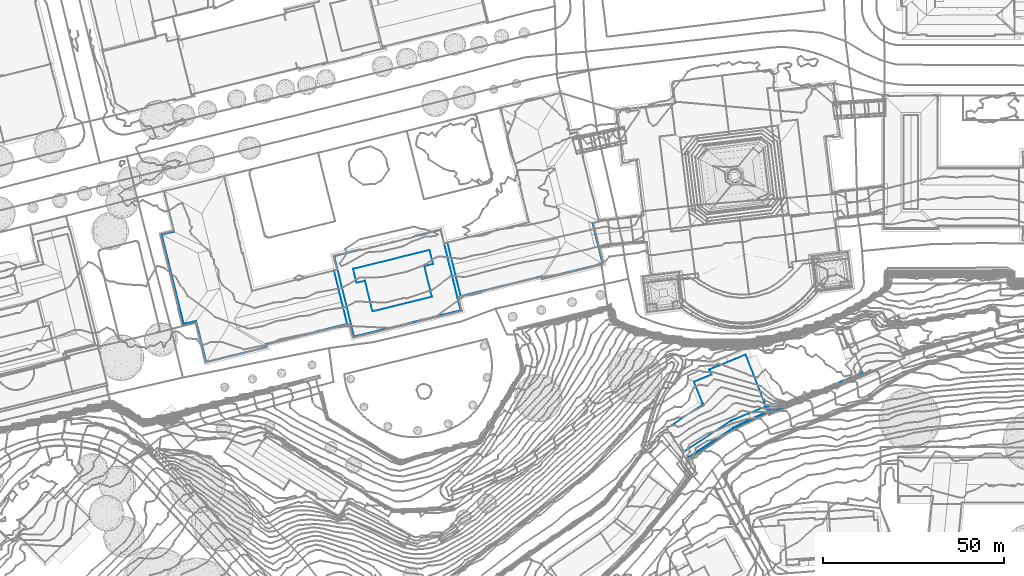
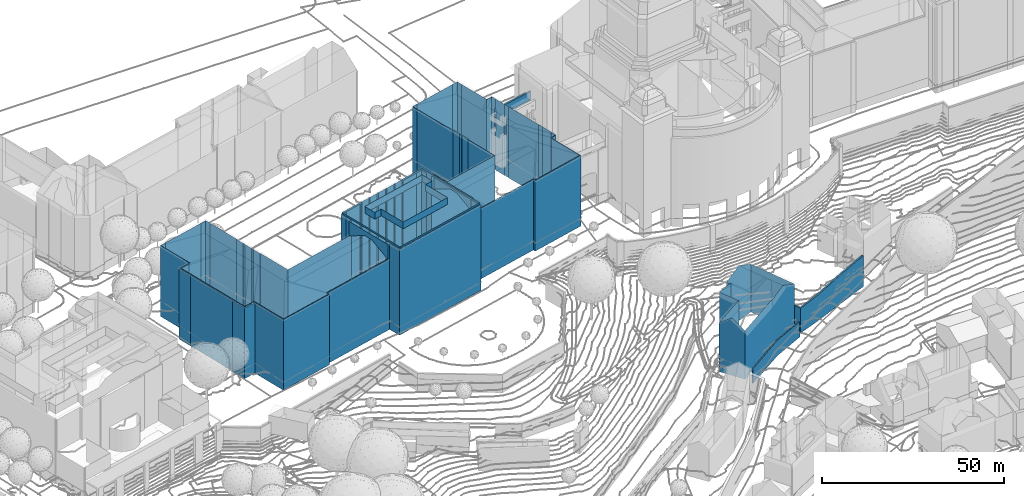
# Not in any storey, part 47 of 494: 3 walls.
"""IFC2X3 model written with IfcOpenShell, lengths in metres."""

import ifcopenshell
import ifcopenshell.guid

model = None  # the IFC model being written
_history = None  # IfcOwnerHistory: only IFC2X3 demands one
_inside = {}  # id of a spatial element -> (the spatial element, [elements in it])
_under = {}  # id of a project, library or spatial element -> (it, [spatial elements below it])
_declared = {}  # id of a project -> (the project, [libraries it declares])
_typed = {}  # id of a type object -> (the type object, [elements of that type])
_made_of = {}  # id of a material, layer set ... -> (it, [elements and type objects made of it])


def new_model(schema):
    """Start an empty IFC model of exactly this schema.

    Asked for "IFC4X3", IfcOpenShell would pick the latest addendum, in which some entities
    have other attributes; the version numbers below select the first issue.
    IFC2X3 requires an IfcOwnerHistory on every rooted entity: one is made here for all.
    """
    global model, _history
    if schema == "IFC4X3":
        model = ifcopenshell.file(schema_version=(4, 3, 0, 0))
    else:
        model = ifcopenshell.file(schema=schema)
    _inside.clear()
    _under.clear()
    _declared.clear()
    _typed.clear()
    _made_of.clear()
    _history = None
    if model.schema == "IFC2X3":
        org = make("IfcOrganization", Name="unknown")
        user = make(
            "IfcPersonAndOrganization",
            ThePerson=make("IfcPerson", FamilyName="unknown"),
            TheOrganization=org,
        )
        app = make(
            "IfcApplication",
            ApplicationDeveloper=org,
            Version="unknown",
            ApplicationFullName="unknown",
            ApplicationIdentifier="unknown",
        )
        _history = make(
            "IfcOwnerHistory",
            OwningUser=user,
            OwningApplication=app,
            ChangeAction="ADDED",
            CreationDate=0,
        )
    return model


def make(cls, **values):
    """One entity of the class cls with the attributes given. An attribute that is None is left unset."""
    return model.create_entity(
        cls, **{name: value for name, value in values.items() if value is not None}
    )


def rooted(cls, **values):
    """An entity with a GlobalId (a new one), such as an element, a storey or a relation."""
    return make(cls, GlobalId=ifcopenshell.guid.new(), OwnerHistory=_history, **values)


def si_unit(unit_type, name, prefix=None):
    """IfcSIUnit, for example si_unit("LENGTHUNIT", "METRE", prefix="MILLI")."""
    return make("IfcSIUnit", UnitType=unit_type, Prefix=prefix, Name=name)


def assignment(units):
    """IfcUnitAssignment: the units of a project."""
    return None if units is None else make("IfcUnitAssignment", Units=units)


def point(xyz):
    """IfcCartesianPoint."""
    return None if xyz is None else make("IfcCartesianPoint", Coordinates=xyz)


def direction(xyz):
    """IfcDirection."""
    return None if xyz is None else make("IfcDirection", DirectionRatios=xyz)


def frame(location, z_axis=None, x_axis=None):
    """IfcAxis2Placement3D, a coordinate frame: its origin and axes. An axis left out is left unset."""
    return make(
        "IfcAxis2Placement3D",
        Location=point(location),
        Axis=direction(z_axis),
        RefDirection=direction(x_axis),
    )


def origin_with_axes():
    """The frame at (0, 0, 0) with the z axis (0, 0, 1) and the x axis (1, 0, 0) written out."""
    return frame((0.0, 0.0, 0.0), z_axis=(0.0, 0.0, 1.0), x_axis=(1.0, 0.0, 0.0))


def place(relative_to, where):
    """IfcLocalPlacement: puts the frame where relative to a parent placement (None: the world)."""
    return make(
        "IfcLocalPlacement", PlacementRelTo=relative_to, RelativePlacement=where
    )


def context(
    kind, dimensions, precision=None, world=None, true_north=None, identifier=None
):
    """IfcGeometricRepresentationContext, for example the 3D "Model" context."""
    return make(
        "IfcGeometricRepresentationContext",
        ContextIdentifier=identifier,
        ContextType=kind,
        CoordinateSpaceDimension=dimensions,
        Precision=precision,
        WorldCoordinateSystem=world,
        TrueNorth=true_north,
    )


def subcontext(parent, identifier, kind, view, scale=None):
    """IfcGeometricRepresentationSubContext, for example "Body" below "Model"."""
    return make(
        "IfcGeometricRepresentationSubContext",
        ContextIdentifier=identifier,
        ContextType=kind,
        ParentContext=parent,
        TargetScale=scale,
        TargetView=view,
    )


def project(units=None, contexts=None):
    """IfcProject with its units and contexts."""
    return rooted(
        "IfcProject",
        Name="project",
        RepresentationContexts=contexts,
        UnitsInContext=assignment(units),
    )


def faces_of(points, faces, orient=None, outer=None):
    """IfcFace entities. A face is a list of loops; a loop is a list of indices into points, from 0.

    orient and outer hold one flag for each loop. By default every Orientation is true, the
    first loop of a face is its IfcFaceOuterBound and the others are IfcFaceBound.
    """
    made = []
    for i, loops in enumerate(faces):
        bounds = []
        for j, loop in enumerate(loops):
            is_outer = j == 0 if outer is None else outer[i][j]
            bounds.append(
                make(
                    "IfcFaceOuterBound" if is_outer else "IfcFaceBound",
                    Bound=make("IfcPolyLoop", Polygon=[points[k] for k in loop]),
                    Orientation=True if orient is None else orient[i][j],
                )
            )
        made.append(make("IfcFace", Bounds=bounds))
    return made


def faceted_brep(points, faces, orient=None, outer=None, voids=None):
    """IfcFacetedBrep: a solid bounded by flat faces; with voids (closed shells), ...WithVoids."""
    shared = [point(p) for p in points]
    hull = make("IfcClosedShell", CfsFaces=faces_of(shared, faces, orient, outer))
    if voids is None:
        return make("IfcFacetedBrep", Outer=hull)
    return make(
        "IfcFacetedBrepWithVoids",
        Outer=hull,
        Voids=[
            make(cls, CfsFaces=faces_of(shared, fs, o, b)) for cls, fs, o, b in voids
        ],
    )


def shape(context_of_items, identifier, shape_type, items):
    """IfcShapeRepresentation: the items that make up one representation, for example the "Body"."""
    return make(
        "IfcShapeRepresentation",
        ContextOfItems=context_of_items,
        RepresentationIdentifier=identifier,
        RepresentationType=shape_type,
        Items=items,
    )


def made_of(thing, what):
    """Note that an element or type object is made of a material, layer set ...; save() writes the relation."""
    if what is not None:
        _made_of.setdefault(what.id(), (what, []))[1].append(thing)
    return thing


def element(
    cls,
    number,
    at=None,
    inside=None,
    cuts=None,
    type_object=None,
    material=None,
    context=None,
    identifier="Body",
    shape_type=None,
    held_by="IfcProductDefinitionShape",
    body=None,
    shapes=None,
    **own,
):
    """One element of the class cls, such as IfcWall. Its Tag is "e" and its number.

    at: its placement. inside: the storey or other place that contains it. cuts: it is an
    opening in that element (IfcRelVoidsElement). A single representation is given by context,
    identifier, shape_type and body (its items); several are given by shapes. held_by: the class
    of the entity that holds the representations. save() writes the other relations.
    """
    e = rooted(cls, Tag="e%d" % number, ObjectPlacement=at, **own)
    if body is not None:
        shapes = [shape(context, identifier, shape_type, body)]
    if shapes is not None:
        e.Representation = make(held_by, Representations=shapes)
    if inside is not None:
        _inside.setdefault(inside.id(), (inside, []))[1].append(e)
    if cuts is not None:
        rooted(
            "IfcRelVoidsElement", RelatingBuildingElement=cuts, RelatedOpeningElement=e
        )
    if type_object is not None:
        _typed.setdefault(type_object.id(), (type_object, []))[1].append(e)
    return made_of(e, material)


def aggregate(whole, parts):
    """IfcRelAggregates: a whole, such as a stair, and the parts it consists of."""
    return rooted("IfcRelAggregates", RelatingObject=whole, RelatedObjects=parts)


def save(model, path):
    """Write the relations noted so far, then the file.

    IfcRelAggregates (storeys below a building ...), IfcRelContainedInSpatialStructure (elements
    in a storey), IfcRelDefinesByType, IfcRelAssociatesMaterial and IfcRelDeclares: one each for
    every whole, place, type object, material and project.
    """
    for whole, parts in _under.values():
        aggregate(whole, parts)
    for where, things in _inside.values():
        rooted(
            "IfcRelContainedInSpatialStructure",
            RelatedElements=things,
            RelatingStructure=where,
        )
    for kind, things in _typed.values():
        rooted("IfcRelDefinesByType", RelatedObjects=things, RelatingType=kind)
    for what, things in _made_of.values():
        rooted("IfcRelAssociatesMaterial", RelatedObjects=things, RelatingMaterial=what)
    for by, libraries in _declared.values():
        rooted("IfcRelDeclares", RelatingContext=by, RelatedDefinitions=libraries)
    model.write(path)


model = new_model("IFC2X3")

# Units and contexts
model_context = context("Model", 3, precision=1e-05, world=origin_with_axes())
body_context = subcontext(model_context, "Body", "Model", "MODEL_VIEW")
ifc_project = project(units=[si_unit("AREAUNIT", "SQUARE_METRE"), si_unit("LENGTHUNIT", "METRE")], contexts=[model_context])

# Walls
wall_1_placement = place(None, frame((211.8297320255, 101.9383160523, 526.7541), z_axis=(0.0, 0.0, 1.0), x_axis=(1.0, 0.0, 0.0)))
element("IfcWall", 1, at=wall_1_placement, Name="Wall 11", context=body_context, shape_type="Brep", body=[
    faceted_brep([(330.2320000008, 220.5643999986, -8.4892), (336.4900000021, 222.9530999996, -16.7574), (330.2320000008, 220.5643999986, -16.7574), (329.9260000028, 219.8671999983, -8.4892), (329.8200000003, 220.1338, -13.0867), (329.9260000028, 219.8671999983, -16.7574), (329.6909999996, 220.4560000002, -13.0867), (329.8200000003, 220.1338, -16.7574), (329.1080000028, 221.9189000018, -8.4892), (329.1080000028, 221.9189000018, -16.7574), (329.6909999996, 220.4560000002, -16.7574), (329.6119999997, 222.120099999, -8.4892), (329.6119999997, 222.120099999, -16.7574), (336.6920000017, 222.4492000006, -8.1932), (336.6920000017, 222.4492000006, -16.7574), (307.6610000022, 207.3280999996, -13.3497), (307.4640000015, 207.6141999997, -13.3507), (307.6610000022, 207.3280999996, -18.1852), (320.1950000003, 215.5537, -13.0867), (320.1950000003, 215.5537, -18.1852), (320.0240000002, 215.8564000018, -18.1852), (307.4640000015, 207.6141999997, -18.1852), (329.9350000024, 220.1884999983, -18.1852), (329.9350000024, 220.1884999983, -16.7574), (329.7860000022, 220.5009999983, -16.7574), (329.7860000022, 220.5009999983, -18.1852), (320.0240000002, 215.8564000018, -13.0867), (355.8230000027, 231.0771000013, -6.4134), (356.0329999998, 230.5771000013, -6.4134), (355.8230000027, 231.0771000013, -16.7574), (345.7250000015, 226.2470999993, -7.1543), (356.0329999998, 230.5771000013, -16.7574), (345.7250000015, 226.2470999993, -16.7574), (336.4900000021, 222.9530999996, -8.1932), (345.5150000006, 226.7470999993, -16.7574), (345.5150000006, 226.7470999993, -7.1543)], [[[0, 1, 2]], [[3, 4, 5]], [[4, 3, 6]], [[7, 5, 4]], [[6, 8, 9]], [[8, 6, 3]], [[9, 10, 6]], [[11, 0, 12]], [[8, 11, 9]], [[13, 3, 14]], [[15, 16, 17]], [[18, 15, 19]], [[16, 20, 21]], [[22, 23, 7]], [[19, 7, 18]], [[7, 19, 22]], [[24, 23, 25]], [[26, 10, 20]], [[10, 24, 25]], [[10, 25, 20]], [[27, 28, 29]], [[28, 30, 31]], [[31, 30, 32]], [[32, 13, 14]], [[13, 32, 30]], [[1, 33, 34]], [[34, 33, 35]], [[35, 27, 29]], [[35, 29, 34]], [[33, 1, 0]], [[0, 2, 12]], [[11, 12, 9]], [[3, 5, 14]], [[16, 21, 17]], [[15, 17, 19]], [[26, 20, 16]], [[7, 4, 18]], [[23, 22, 25]], [[6, 10, 26]], [[28, 31, 29]]]),
])
wall_2_placement = place(None, frame((513.5957320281, 317.6404160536, 509.4928), z_axis=(0.0, 0.0, 1.0), x_axis=(1.0, 0.0, 0.0)))
element("IfcWall", 2, at=wall_2_placement, Name="Wall 0", context=body_context, shape_type="Brep", body=[
    faceted_brep([(9.9549999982, 6.7265999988, 0.0), (10.0130000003, 6.5868999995, 0.0), (10.0130000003, 6.5868999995, 16.3604), (9.9519999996, 6.7344000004, 16.2454), (0.0, 0.0, 16.3634), (0.0, 0.0, 0.0), (2.6699999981, -4.1709000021, 18.5192), (3.1609999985, -4.9375, 17.8613), (14.3919999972, 17.3271999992, 17.2913), (11.7060000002, 16.2216999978, 0.0), (11.7060000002, 16.2216999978, 15.9325), (14.2579999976, 17.2714999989, 0.0), (18.943, 19.1992000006, 0.0), (16.810999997, 18.3222999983, 18.5142), (11.8929999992, 15.7646999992, 5.9744), (12.0859999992, 15.2949999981, 0.0), (12.0810000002, 15.307599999, 15.9365), (11.9299999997, 15.6747999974, 15.9345), (8.5799999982, 10.0713, 16.2274), (7.4450000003, 12.8290999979, 16.2124), (7.4450000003, 12.8290999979, 0.0), (7.6369999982, 12.9081999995, 0.0), (12.2809999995, 14.8202999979, 0.0), (9.8909999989, 13.8359999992, 0.0), (12.2809999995, 14.8202999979, 16.3294), (18.1059999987, 2.2529999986, 16.2684), (17.7929999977, 2.1259999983, 16.3164), (17.8409999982, 2.1464999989, 6.2144), (17.5299999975, 2.0205000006, 16.3574), (17.5299999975, 2.0205000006, 0.0), (18.0879999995, 2.2460999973, 0.0), (4.3129999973, -6.7373000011, 16.3154), (4.3129999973, -6.7373000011, 0.0), (2.1219999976, -3.3144000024, 0.0), (23.8809999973, 4.5859999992, 17.8543), (22.5590000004, 4.0527999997, 18.5142), (21.3359999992, 3.5585999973, 17.8973), (19.617999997, 2.8642999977, 17.0313), (20.7049999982, 3.3037, 0.0), (18.8249999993, 19.1513999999, 17.5053), (21.7850000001, 20.3691999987, 16.0235), (21.7850000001, 20.3691999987, 0.0), (27.3729999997, 5.9970999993, 0.0), (27.3729999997, 5.9970999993, 16.1094), (24.5729999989, 4.8662, 0.0), (2.1219999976, -3.3144000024, 19.2541), (7.6380000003, 12.9082999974, 16.3574), (9.0689999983, 13.4970999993, 16.3484)], [[[0, 1, 2]], [[0, 2, 3]], [[2, 1, 4]], [[1, 5, 4]], [[6, 4, 7]], [[8, 9, 10]], [[11, 9, 8]], [[8, 12, 11]], [[13, 12, 8]], [[14, 15, 16]], [[10, 14, 17]], [[10, 9, 14]], [[14, 9, 15]], [[18, 0, 3]], [[0, 18, 19]], [[20, 0, 19]], [[20, 19, 21]], [[22, 16, 15]], [[23, 24, 22]], [[25, 26, 27]], [[26, 28, 27]], [[27, 29, 30]], [[31, 7, 32]], [[32, 7, 33]], [[5, 33, 7]], [[32, 29, 28]], [[31, 32, 28]], [[34, 35, 36]], [[30, 37, 25]], [[37, 30, 38]], [[39, 40, 12]], [[40, 41, 12]], [[42, 43, 34]], [[44, 42, 34]], [[38, 44, 34]], [[43, 42, 40]], [[40, 42, 41]], [[45, 4, 6]], [[4, 5, 7]], [[17, 14, 16]], [[46, 21, 19]], [[24, 16, 22]], [[47, 24, 23]], [[21, 46, 47]], [[47, 23, 21]], [[30, 25, 27]], [[28, 29, 27]], [[36, 37, 38]], [[38, 34, 36]], [[39, 12, 13]]]),
])
wall_3_placement = place(None, frame((373.5987320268, 371.2869160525, 536.8784), z_axis=(0.0, 0.0, 1.0), x_axis=(1.0, 0.0, 0.0)))
element("IfcWall", 3, at=wall_3_placement, Name="Wall 0", context=body_context, shape_type="Brep", body=[
    faceted_brep([(57.8649999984, -3.7060000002, 29.2891), (58.368999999, -3.6053999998, 29.2891), (57.8669999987, -3.7129000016, 28.7192), (58.368999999, -3.6053999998, 0.0229), (57.8649999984, -3.7060000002, 0.0229), (48.0639999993, -6.1162, 29.2891), (54.824000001, -4.4598999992, 28.7192), (48.0639999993, -6.1162, 28.7192), (53.5419999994, -28.3251999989, 29.2891), (53.5419999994, -28.3251999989, 28.7191), (82.9759999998, -21.0643999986, 29.2891), (82.9759999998, -21.0643999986, 28.7191), (70.6050000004, -0.5516999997, 29.2891), (77.4970000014, 1.1446000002, 28.7191), (70.6039999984, -0.5498000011, 28.7192), (53.2630000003, -9.6035000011, 31.5679), (74.4100000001, -4.3856999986, 31.5679), (53.2630000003, -9.6035000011, 29.2891), (54.2159999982, -13.4697000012, 31.5679), (54.2159999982, -13.4697000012, 29.2891), (56.5469999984, -12.8955000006, 31.5679), (56.5469999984, -12.8955000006, 29.2891), (58.6330000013, -21.3495999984, 31.5679), (58.6330000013, -21.3495999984, 29.2891), (75.0439999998, -17.2998000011, 31.5679), (75.0439999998, -17.2998000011, 29.2891), (72.9580000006, -8.8467000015, 31.5679), (72.9580000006, -8.8467000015, 29.2891), (75.3640000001, -8.2529000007, 31.5679), (75.3640000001, -8.2529000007, 29.2891), (74.4100000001, -4.3856999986, 29.2891), (110.5980000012, 39.0088, 23.5928), (111.0410000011, 37.2666000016, 0.0441), (110.5980000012, 39.0088, 0.0441), (94.4189999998, 33.1651000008, 23.5928), (93.9910000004, 34.9111999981, 23.5928), (94.4189999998, 33.1651000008, 0.0441), (94.4970000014, 33.182599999, 23.5928), (94.4970000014, 33.182599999, 0.0441), (97.057, 22.7696000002, 23.5928), (97.057, 22.7696000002, 0.0441), (105.5370000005, -12.4990000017, 23.5926), (105.3570000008, -11.7714999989, 23.5926), (105.5370000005, -12.4990000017, 0.0439), (122.4990000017, -8.316399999, 23.5926), (122.4990000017, -8.316399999, 0.0438), (119.6900000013, 3.0302999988, 23.5926), (119.6900000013, 3.0302999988, 0.0439), (121.2780000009, 3.4239000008, 23.5926), (121.2780000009, 3.4239000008, 0.0439), (116.3379999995, 23.0918000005, 13.2288), (116.4059999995, 23.1083999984, 13.2288), (116.3379999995, 23.0918000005, 0.044), (116.550999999, 23.2813000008, 19.0282), (116.7159999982, 22.5117999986, 19.0282), (116.550999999, 23.2813000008, 13.2288), (116.3040000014, 23.2276000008, 19.0282), (116.3040000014, 23.2276000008, 13.2288), (116.561999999, 22.4785000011, 19.0282), (116.7159999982, 22.5117000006, 13.2288), (115.7430000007, 27.0313000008, 17.5864), (115.8660000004, 26.4629000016, 17.5864), (115.7430000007, 27.0313000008, 13.2288), (128.1629999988, 29.7071000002, 20.3861), (128.2529999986, 29.1319000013, 20.3861), (128.1629999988, 29.7071000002, 17.5864), (101.8869999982, 3.246100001, 23.8076), (101.8660000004, 3.3379000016, 23.7586), (101.8869999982, 3.246100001, 23.6796), (116.3379999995, 23.0918000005, 23.8708), (116.4059999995, 23.1083999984, 23.8358), (116.3379999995, 23.0918000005, 19.0282), (78.0109999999, -0.566399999, 28.7191), (77.938000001, -0.5830000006, 28.7191), (78.0109999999, -0.566399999, -0.0031), (77.5419999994, 1.3183999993, 28.7192), (77.5419999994, 1.3183999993, -0.0031), (75.6510000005, 0.8594000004, 28.7192), (75.6510000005, 0.8594000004, -0.0031), (75.6629999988, 0.7919999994, 28.7192), (75.6629999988, 0.7919999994, -0.0031), (70.5520000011, -0.3955000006, 28.7192), (70.5520000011, -0.3955000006, -0.0031), (70.6039999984, -0.5498000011, -0.0031), (54.7780000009, -4.2939000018, 28.7192), (54.8229999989, -4.4541000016, 0.0229), (54.7780000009, -4.2939000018, -0.0031), (54.824000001, -4.4598999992, -0.0031), (49.7030000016, -5.6123000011, 28.7192), (49.7030000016, -5.6123000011, -0.0031), (49.688000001, -5.5439000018, 28.7192), (49.688000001, -5.5439000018, -0.0031), (47.8020000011, -5.995099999, 28.7192), (47.8020000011, -5.995099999, -0.0031), (48.2789999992, -7.9043000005, 28.7192), (48.2789999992, -7.9043000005, -0.0031), (48.3469999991, -7.8944999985, 28.7192), (48.3469999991, -7.8944999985, -0.0031), (51.6810000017, -25.0097000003, 28.7191), (51.6400000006, -24.8467000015, 23.7846), (51.6810000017, -25.0097000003, 23.5926), (50.1359999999, -18.7490000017, 27.0813), (51.6400000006, -24.8467000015, 23.5926), (49.4829999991, -16.1035000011, 27.0813), (47.9979999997, -10.0830000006, 28.7192), (47.9979999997, -10.0839999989, 23.8266), (83.3170000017, -21.2402000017, 28.7191), (53.2219999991, -28.6689000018, 28.7191), (83.3170000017, -21.2402000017, -0.0031), (15.8759999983, 15.6044999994, 23.5927), (17.6409999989, 16.0331999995, 23.5927), (15.8759999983, 15.6044999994, 0.0), (3.7170000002, 0.932599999, 23.5927), (1.0240000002, 11.9111000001, 23.5927), (3.7170000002, 0.932599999, 0.0), (1.0240000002, 11.9111000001, 0.0), (0.0, 0.0, 23.5927), (0.0, 0.0, 0.0), (1.074000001, -4.4052999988, 23.5927), (1.074000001, -4.4052999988, 0.0), (1.1359999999, -4.3847000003, 23.5927), (1.1359999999, -4.3847000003, 0.0), (5.0500000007, -20.6171999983, 23.5927), (5.0500000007, -20.6171999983, -0.0001), (4.9239999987, -20.6572000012, 23.5927), (4.9239999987, -20.6572000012, -0.0001), (6.1000000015, -25.433600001, 23.5927), (6.1000000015, -25.433600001, -0.0001), (9.8399999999, -24.5126999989, 23.5927), (9.8399999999, -24.5126999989, -0.0001), (12.5229999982, -35.4891999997, 23.5927), (12.5229999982, -35.4891999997, -0.0001), (29.504999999, -31.2811999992, 23.5926), (29.504999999, -31.2811999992, -0.0001), (29.3319999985, -30.5546999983, 23.5926), (29.3319999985, -30.5546999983, -0.0001), (29.175999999, -30.3662, 23.7956), (29.3900000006, -31.2324000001, 23.7956), (29.175999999, -30.3662, 23.5926), (12.686999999, -35.3524999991, 23.7956), (29.3900000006, -31.2324000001, 23.5926), (3.807, 0.6464999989, 23.7957), (1.0269999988, 11.9111000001, 23.7957), (3.807, 0.6464999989, 23.5927), (0.3960000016, -0.1942999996, 23.7957), (0.3960000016, -0.1942999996, 23.5927), (15.8819999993, 15.5742000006, 23.7957), (17.6469999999, 16.0088, 23.5927), (15.8819999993, 15.5742000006, 23.5927), (9.8859999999, -23.9979999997, 23.7957), (12.686999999, -35.3524999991, 23.5927), (6.4750000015, -24.8388999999, 23.7957), (9.8859999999, -23.9979999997, 23.5927), (6.4750000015, -24.8388999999, 23.5927), (48.879999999, -9.8662, 23.5937), (48.879999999, -9.8662, 28.7192), (48.6710000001, -9.0918000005, -0.0001), (48.879999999, -9.8662, -0.0031), (52.2740000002, -24.8632999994, 28.7191), (53.2219999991, -28.6689000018, -0.0031), (52.2740000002, -24.8632999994, -0.0031), (54.8229999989, -4.4541000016, 29.2891), (55.2969999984, -4.3535000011, 29.2891), (55.2969999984, -4.3535000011, -0.0031), (115.574000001, 26.4706999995, 13.2288), (115.5069999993, 26.4541000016, 13.2288), (115.574000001, 26.4706999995, 0.044), (105.7120000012, -12.2353000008, 23.7586), (105.5549999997, -11.5976000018, 23.7586), (105.7120000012, -12.2353000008, 23.5926), (82.9970000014, -17.1416000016, 23.5926), (105.5549999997, -11.5976000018, 23.5926), (122.2280000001, -8.1611000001, 23.7586), (122.2280000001, -8.1611000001, 23.5926), (97.1779999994, 22.3594000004, 23.7588), (97.1779999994, 22.3594000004, 23.5928), (94.5029999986, 33.1845999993, 23.7588), (94.0769999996, 34.9316999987, 23.5928), (113.3610000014, 27.7842000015, 23.7958), (113.3869999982, 27.6787, 23.7958), (113.3610000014, 27.7842000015, 23.5928), (115.1669999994, 28.1182000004, 23.7958), (113.3869999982, 27.6787, 23.5928), (110.5949999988, 39.0078000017, 23.7588), (111.0289999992, 37.2626999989, 23.5928), (119.4659999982, 3.0342000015, 23.7956), (119.4659999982, 3.0342000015, 23.5926), (121.2650000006, 3.4765999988, 23.7956), (121.2650000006, 3.4765999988, 23.5926), (115.5069999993, 26.4541000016, 23.8718), (115.5069999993, 26.4541000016, 20.3861), (115.574000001, 26.4706999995, 23.8378), (115.574000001, 26.4706999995, 20.3861), (82.3779999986, -17.4393999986, 28.7191), (82.3779999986, -17.4393999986, -0.0031), (78.4219999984, -2.5643999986, 28.7191), (78.4219999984, -2.5643999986, 23.8186), (78.4219999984, -2.5654000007, 0.0439), (77.938000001, -0.5830000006, -0.0031), (78.4239999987, -2.5643999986, -0.0031), (79.3449999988, -2.3348999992, 0.0439), (83.0309999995, -17.2782999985, 0.0439), (79.3449999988, -2.3348999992, -0.0031), (79.3449999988, -2.3348999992, 28.7191), (81.4860000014, -11.0166000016, 27.0813), (80.8339999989, -8.370099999, 27.0813), (83.0309999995, -17.2782999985, 28.7191), (79.3449999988, -2.3348999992, 23.8176), (82.9970000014, -17.1416000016, 23.7696), (83.0309999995, -17.2782999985, 23.5926), (70.1350000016, -0.691399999, 29.2891), (70.1350000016, -0.691399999, -0.0031), (67.561999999, -1.3310000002, 29.2891), (67.5949999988, -1.4305999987, 29.2891), (67.561999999, -1.3310000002, -0.0031), (67.0709999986, -1.4550999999, 29.2891), (67.0709999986, -1.4550999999, -0.0031), (64.5260000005, -2.1865000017, 29.2891), (67.0929999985, -1.5527000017, 29.2891), (64.5260000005, -2.1865000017, -0.0031), (64.4990000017, -2.0888000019, 29.2891), (64.4990000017, -2.0888000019, -0.0031), (64.006000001, -2.2138000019, 29.2891), (64.006000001, -2.2138000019, -0.0031), (61.4560000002, -2.9433000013, 29.2891), (64.0229999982, -2.3027000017, 29.2891), (61.4560000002, -2.9433000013, -0.0031), (61.4290000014, -2.8436999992, 29.2891), (61.4290000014, -2.8436999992, -0.0031), (58.3869999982, -3.6992000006, -0.0031), (58.368999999, -3.6053999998, -0.0031), (55.3229999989, -4.4492000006, -0.0031), (77.4970000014, 1.1446000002, 29.2891), (78.4189999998, -2.5654000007, 29.2891), (77.9270000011, -0.5859000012, 28.7191), (108.8660000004, 38.5166000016, 23.7898), (108.8539999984, 38.5799999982, 23.7588), (108.8660000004, 38.5166000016, 0.0441), (108.8530000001, 38.5839999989, 23.5928), (108.8530000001, 38.5839999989, 0.0441), (93.9910000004, 34.9111999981, 0.0441), (95.7369999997, 35.3427999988, 0.0441), (94.0769999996, 34.9316999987, 23.7588), (95.7369999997, 35.3418000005, 23.7588), (95.7369999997, 35.3427999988, 23.5928), (98.7190000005, 16.9912, 23.8656), (98.0789999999, 19.5478999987, 23.8598), (98.7190000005, 16.9912, 0.0439), (98.6140000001, 16.9600000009, 23.8106), (98.6140000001, 16.9600000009, 0.0439), (99.5309999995, 13.6953000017, 23.8656), (98.8949999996, 16.2657000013, 23.8636), (99.5309999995, 13.6953000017, 0.0439), (99.3159999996, 13.6475000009, 0.0439), (99.3159999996, 13.6475000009, 23.5926), (99.3209999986, 13.6493999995, 23.7586), (120.7749999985, 5.1620999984, 23.8636), (120.8500000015, 5.1719000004, 23.8266), (120.7749999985, 5.1620999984, 0.0439), (120.0170000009, 8.5381000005, 23.8276), (119.9479999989, 8.5117999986, 0.0439), (120.0170000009, 8.5381000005, 0.0439), (119.6469999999, 10.0518000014, 23.8266), (119.6469999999, 10.0518000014, 0.0439), (119.5700000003, 10.0322999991, 23.8656), (119.5700000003, 10.0322999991, 0.0439), (116.7789999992, 21.5967000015, 23.8358), (116.7120000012, 21.5782000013, 0.044), (116.7789999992, 21.5967000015, 0.044), (116.4059999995, 23.1083999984, 19.0282), (116.561999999, 22.4785000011, 13.2288), (116.4059999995, 23.1083999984, 0.044), (115.5229999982, 26.3887000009, 13.2288), (115.5069999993, 26.4541999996, 0.044), (115.5229999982, 26.3887000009, 17.5864), (115.5229999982, 26.3876999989, 20.3861), (128.2529999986, 29.1319000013, 17.5864), (115.8660000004, 26.4629000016, 13.2288), (115.4510000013, 26.9677999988, 17.5864), (115.4510000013, 26.9677999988, 13.2288), (115.4519999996, 26.9668000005, 20.3861), (98.7930000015, 16.246100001, 0.0439), (98.7930000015, 16.246100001, 23.8126), (98.8949999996, 16.2657000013, 0.0439), (97.8040000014, 20.2364000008, 0.0441), (97.8040000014, 20.2364000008, 23.8088), (97.9789999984, 19.5282999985, 0.0441), (97.9789999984, 19.5284000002, 23.8098), (98.0789999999, 19.5478999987, 0.0441), (101.8669999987, 3.3251999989, 23.5926), (101.8869999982, 3.246100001, 0.0439), (101.8660000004, 3.3379000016, 23.5976), (91.5289999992, 0.6983000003, 23.8046), (91.5289999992, 0.6983000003, 0.0439), (113.324000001, 27.7743999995, 23.8138), (113.324000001, 27.7743999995, 0.0441), (115.1460000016, 28.2050999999, 23.5928), (115.1460000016, 28.2050999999, 0.0441), (111.0410000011, 37.2666000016, 23.5928), (110.9750000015, 37.246100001, 0.0441), (111.0289999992, 37.2626999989, 23.7648), (110.9750000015, 37.246100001, 23.7918), (111.0009999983, 37.1396999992, 23.7928), (95.754999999, 35.2725000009, 0.0441), (95.754999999, 35.2725000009, 23.7948), (119.9479999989, 8.5117999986, 23.8646), (116.7120000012, 21.5782000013, 23.8708), (115.1840000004, 28.0469000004, 23.8378), (115.1669999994, 28.1182000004, 23.5928), (120.8500000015, 5.1719000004, 0.0439), (121.2520000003, 3.5322999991, 23.8276), (70.1629999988, -0.7899999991, 29.2891), (70.1629999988, -0.7899999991, -0.0031), (67.5949999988, -1.4305999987, -0.0031), (67.0929999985, -1.5527000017, -0.0031), (64.0229999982, -2.3027000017, -0.0031), (60.932, -2.9618999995, 29.2891), (60.932, -2.9618999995, -0.0031), (60.9580000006, -3.0654000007, 29.2891), (60.9580000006, -3.0654000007, -0.0031), (58.3869999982, -3.6992000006, 29.2891), (57.8920000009, -3.8203000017, -0.0031), (57.8669999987, -3.7129000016, -0.0031), (57.8920000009, -3.8203000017, 29.2891), (55.3229999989, -4.4492000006, 29.2891), (51.6810000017, -25.0097000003, -0.0031), (18.0700000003, 14.2949000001, 23.8377), (17.993999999, 14.2714999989, 0.0), (18.0700000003, 14.2949000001, 0.0), (2.7650000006, 12.3436999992, 0.0), (2.7650000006, 12.3438000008, 23.5927), (2.7839999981, 12.2763999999, 0.0), (2.7659999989, 12.3418000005, 23.7957), (2.7839999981, 12.2763999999, 23.8277), (2.7666999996, 12.3383999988, 23.7957), (2.7851999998, 12.2738000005, 0.0), (2.7661000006, 12.3394000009, 23.5927), (22.6050000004, -5.316399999, 23.9806), (22.8079999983, -5.2685000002, 23.8797), (22.6050000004, -5.316399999, -0.0001), (21.9010000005, -2.0097000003, 23.9277), (22.074000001, -2.7226000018, -0.0001), (21.9010000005, -2.0097000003, -0.0001), (21.8000000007, -2.0331999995, 23.9777), (21.8000000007, -2.0331999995, -0.0001), (21.1649999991, 0.5273999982, 23.9797), (21.1649999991, 0.5273999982, 0.0), (21.0949999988, 1.2646999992, 23.9267), (21.2670000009, 0.5507999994, 0.0), (21.0949999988, 1.2646999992, 0.0), (20.5650000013, 3.8506000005, 23.8767), (20.3539999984, 3.8027999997, 0.0), (20.5650000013, 3.8506000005, 0.0), (17.993999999, 14.2714999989, 23.8767), (21.9699999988, -2.7479999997, -0.0001), (21.9699999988, -2.7479999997, 23.9807), (22.074000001, -2.7226000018, 23.9287), (21.2670000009, 0.5507999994, 23.9287), (20.9930000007, 1.2373000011, 23.9777), (20.9930000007, 1.2373000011, 0.0), (20.3539999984, 3.8027999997, 23.9807), (22.8079999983, -5.2685000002, -0.0001), (25.3680000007, -15.6893999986, -0.0001), (25.3680000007, -15.6893999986, 23.8836), (15.8880000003, 15.5419999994, 23.8117), (15.8880000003, 15.5419999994, 0.0), (17.6409999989, 16.0331999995, 0.0), (17.6469999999, 16.0088, 23.7957), (17.6680000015, 15.9248000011, 23.8377), (25.4609999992, -15.6660000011, 23.8376), (35.7390000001, -13.1083999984, 23.8266), (35.7390000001, -13.1083999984, -0.0001), (47.9979999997, -10.0830000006, -0.0031), (105.3570000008, -11.7714999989, 0.0439), (83.0309999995, -17.2782999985, -0.0031)], [[[0, 1, 2]], [[2, 3, 4]], [[5, 6, 7]], [[8, 5, 9]], [[10, 8, 11]], [[12, 13, 14]], [[15, 16, 17]], [[18, 15, 19]], [[20, 18, 21]], [[22, 20, 23]], [[24, 22, 25]], [[26, 24, 27]], [[28, 26, 29]], [[16, 28, 30]], [[31, 32, 33]], [[34, 35, 36]], [[37, 34, 38]], [[39, 37, 40]], [[41, 42, 43]], [[44, 41, 45]], [[46, 44, 47]], [[48, 46, 49]], [[50, 51, 52]], [[53, 54, 55]], [[56, 53, 57]], [[54, 58, 59]], [[60, 61, 62]], [[63, 64, 65]], [[66, 67, 68]], [[69, 70, 71]], [[72, 73, 74]], [[75, 72, 76]], [[77, 75, 78]], [[79, 77, 80]], [[81, 79, 82]], [[14, 81, 83]], [[84, 85, 86]], [[85, 87, 86]], [[88, 84, 89]], [[90, 88, 91]], [[92, 90, 93]], [[94, 92, 95]], [[96, 94, 97]], [[98, 99, 100]], [[99, 98, 101]], [[102, 100, 99]], [[103, 104, 105]], [[104, 103, 101]], [[104, 101, 98]], [[106, 107, 108]], [[109, 110, 111]], [[112, 113, 114]], [[113, 115, 114]], [[116, 112, 117]], [[118, 116, 119]], [[120, 118, 121]], [[122, 120, 123]], [[124, 122, 125]], [[126, 124, 127]], [[128, 126, 129]], [[130, 128, 131]], [[132, 130, 133]], [[134, 132, 135]], [[136, 137, 138]], [[137, 139, 140]], [[141, 142, 143]], [[144, 141, 145]], [[146, 147, 148]], [[139, 149, 150]], [[149, 151, 152]], [[151, 144, 153]], [[154, 155, 96]], [[154, 156, 157]], [[156, 154, 96]], [[97, 156, 96]], [[158, 159, 107]], [[158, 160, 159]], [[99, 138, 102]], [[161, 162, 6]], [[6, 163, 85]], [[164, 165, 166]], [[167, 168, 169]], [[168, 170, 171]], [[172, 167, 173]], [[174, 37, 175]], [[176, 177, 37]], [[178, 179, 180]], [[179, 181, 182]], [[183, 184, 31]], [[185, 172, 186]], [[187, 186, 188]], [[189, 190, 191]], [[191, 190, 192]], [[193, 108, 194]], [[73, 195, 196]], [[197, 73, 196]], [[73, 197, 198]], [[197, 199, 198]], [[200, 201, 202]], [[203, 204, 205]], [[204, 203, 206]], [[205, 207, 203]], [[208, 206, 209]], [[206, 208, 204]], [[209, 170, 208]], [[210, 14, 211]], [[14, 210, 12]], [[211, 14, 83]], [[212, 213, 214]], [[215, 212, 216]], [[217, 218, 219]], [[220, 217, 221]], [[222, 220, 223]], [[224, 225, 226]], [[227, 224, 228]], [[1, 229, 3]], [[3, 229, 230]], [[162, 231, 163]], [[232, 233, 234]], [[233, 10, 195]], [[11, 195, 10]], [[233, 195, 234]], [[235, 236, 237]], [[237, 236, 238]], [[238, 239, 237]], [[240, 177, 241]], [[177, 240, 35]], [[242, 243, 177]], [[244, 241, 177]], [[177, 243, 244]], [[245, 246, 247]], [[248, 247, 249]], [[250, 251, 252]], [[253, 254, 255]], [[255, 250, 252]], [[255, 252, 253]], [[256, 257, 258]], [[259, 260, 261]], [[262, 261, 263]], [[264, 262, 265]], [[266, 267, 268]], [[269, 70, 58]], [[266, 58, 70]], [[270, 58, 266]], [[271, 270, 268]], [[270, 271, 51]], [[268, 270, 266]], [[165, 272, 273]], [[274, 57, 272]], [[57, 273, 272]], [[190, 189, 275]], [[275, 189, 56]], [[56, 189, 69]], [[56, 69, 71]], [[50, 52, 57]], [[274, 275, 56]], [[64, 61, 276]], [[61, 64, 275]], [[272, 277, 274]], [[274, 61, 275]], [[278, 60, 279]], [[60, 278, 280]], [[60, 63, 65]], [[63, 60, 280]], [[281, 282, 248]], [[248, 249, 281]], [[251, 282, 283]], [[281, 283, 282]], [[284, 285, 175]], [[175, 285, 174]], [[175, 39, 40]], [[175, 40, 284]], [[286, 287, 285]], [[285, 284, 286]], [[246, 287, 288]], [[286, 288, 287]], [[289, 290, 68]], [[253, 290, 289]], [[254, 291, 67]], [[254, 67, 255]], [[254, 253, 289]], [[292, 290, 293]], [[68, 290, 292]], [[68, 292, 66]], [[294, 178, 180]], [[294, 180, 295]], [[296, 297, 295]], [[296, 295, 180]], [[32, 298, 299]], [[299, 298, 184]], [[184, 300, 301]], [[184, 301, 299]], [[299, 301, 302]], [[302, 294, 295]], [[302, 295, 299]], [[303, 304, 235]], [[235, 237, 303]], [[303, 241, 244]], [[244, 243, 304]], [[244, 304, 303]], [[238, 31, 239]], [[183, 238, 236]], [[260, 305, 256]], [[256, 258, 260]], [[267, 306, 264]], [[264, 265, 267]], [[181, 307, 308]], [[297, 308, 279]], [[296, 308, 297]], [[307, 279, 308]], [[307, 280, 278]], [[279, 307, 278]], [[307, 191, 280]], [[164, 166, 279]], [[279, 166, 297]], [[192, 280, 191]], [[309, 257, 310]], [[309, 310, 49]], [[187, 188, 310]], [[48, 49, 188]], [[188, 49, 310]], [[311, 210, 312]], [[213, 311, 313]], [[218, 215, 314]], [[225, 222, 315]], [[316, 227, 317]], [[318, 316, 319]], [[320, 318, 229]], [[321, 2, 322]], [[2, 321, 323]], [[0, 2, 323]], [[2, 4, 322]], [[324, 323, 231]], [[100, 325, 158]], [[134, 135, 100]], [[100, 135, 325]], [[326, 327, 328]], [[329, 330, 331]], [[332, 333, 331]], [[334, 335, 336]], [[113, 330, 115]], [[330, 113, 142]], [[332, 330, 142]], [[337, 338, 339]], [[340, 341, 342]], [[343, 340, 344]], [[345, 343, 346]], [[347, 348, 349]], [[350, 351, 352]], [[353, 350, 327]], [[354, 355, 337]], [[337, 339, 354]], [[354, 341, 356]], [[356, 355, 354]], [[346, 348, 357]], [[357, 345, 346]], [[358, 347, 359]], [[349, 359, 347]], [[351, 360, 358]], [[358, 359, 351]], [[361, 338, 362]], [[363, 362, 338]], [[331, 333, 364]], [[364, 365, 331]], [[366, 110, 328]], [[328, 110, 147]], [[367, 368, 147]], [[147, 326, 328]], [[326, 147, 368]], [[364, 146, 148]], [[364, 148, 365]], [[109, 111, 365]], [[109, 365, 148]], [[362, 363, 369]], [[369, 370, 371]], [[369, 371, 362]], [[371, 105, 372]], [[105, 371, 370]], [[104, 155, 105]], [[372, 154, 157]], [[372, 105, 154]], [[154, 105, 155]], [[373, 42, 201]], [[193, 194, 209]], [[209, 206, 193]], [[196, 195, 203]], [[197, 196, 207]], [[197, 200, 199]], [[203, 207, 196]], [[207, 292, 200]], [[293, 200, 292]], [[200, 197, 207]], [[1, 3, 2]], [[161, 6, 5]], [[5, 7, 9]], [[8, 9, 11]], [[232, 13, 12]], [[16, 30, 17]], [[15, 17, 19]], [[18, 19, 21]], [[20, 21, 23]], [[22, 23, 25]], [[24, 25, 27]], [[26, 27, 29]], [[28, 29, 30]], [[298, 32, 31]], [[35, 240, 36]], [[34, 36, 38]], [[37, 38, 40]], [[42, 373, 43]], [[41, 43, 45]], [[44, 45, 47]], [[46, 47, 49]], [[51, 271, 52]], [[54, 59, 55]], [[53, 55, 57]], [[58, 270, 59]], [[61, 277, 62]], [[64, 276, 65]], [[67, 291, 68]], [[71, 70, 269]], [[73, 198, 74]], [[72, 74, 76]], [[75, 76, 78]], [[77, 78, 80]], [[79, 80, 82]], [[81, 82, 83]], [[3, 230, 322]], [[6, 85, 84]], [[84, 86, 89]], [[88, 89, 91]], [[90, 91, 93]], [[92, 93, 95]], [[94, 95, 97]], [[107, 159, 108]], [[110, 366, 111]], [[112, 114, 117]], [[116, 117, 119]], [[118, 119, 121]], [[120, 121, 123]], [[122, 123, 125]], [[124, 125, 127]], [[126, 127, 129]], [[128, 129, 131]], [[130, 131, 133]], [[132, 133, 135]], [[137, 140, 138]], [[139, 150, 140]], [[142, 113, 143]], [[141, 143, 145]], [[367, 147, 146]], [[149, 152, 150]], [[151, 153, 152]], [[144, 145, 153]], [[136, 138, 99]], [[162, 163, 6]], [[165, 273, 166]], [[168, 171, 169]], [[208, 170, 168]], [[167, 169, 173]], [[176, 37, 174]], [[242, 177, 176]], [[179, 182, 180]], [[181, 308, 182]], [[300, 184, 183]], [[172, 173, 186]], [[185, 186, 187]], [[106, 108, 193]], [[201, 374, 202]], [[213, 313, 214]], [[212, 214, 216]], [[218, 314, 219]], [[217, 219, 221]], [[220, 221, 223]], [[225, 315, 226]], [[224, 226, 228]], [[320, 229, 1]], [[324, 231, 162]], [[234, 13, 232]], [[246, 288, 247]], [[245, 247, 248]], [[251, 283, 252]], [[257, 309, 258]], [[305, 260, 259]], [[259, 261, 262]], [[262, 263, 265]], [[306, 267, 266]], [[56, 57, 274]], [[52, 273, 57]], [[277, 61, 274]], [[60, 62, 279]], [[31, 33, 239]], [[31, 238, 183]], [[210, 211, 312]], [[311, 312, 313]], [[215, 216, 314]], [[222, 223, 315]], [[227, 228, 317]], [[316, 317, 319]], [[318, 319, 229]], [[323, 321, 231]], [[325, 160, 158]], [[98, 100, 158]], [[353, 327, 326]], [[330, 329, 115]], [[338, 361, 339]], [[356, 341, 340]], [[340, 342, 344]], [[343, 344, 346]], [[357, 348, 347]], [[360, 351, 350]], [[350, 352, 327]], [[42, 209, 201]], [[194, 201, 209]], [[374, 201, 194]], [[200, 202, 199]]]),
])

save(model, "model.ifc")
